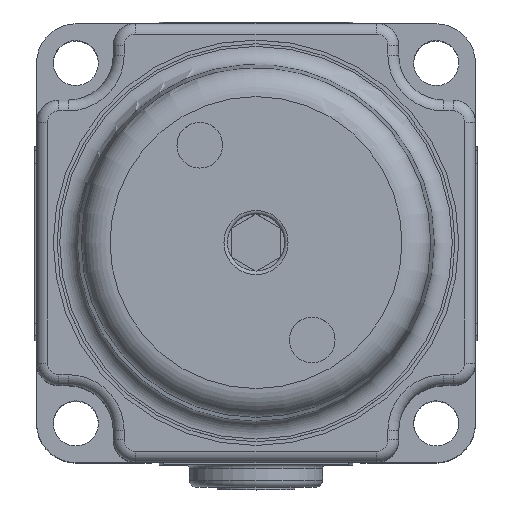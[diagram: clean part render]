
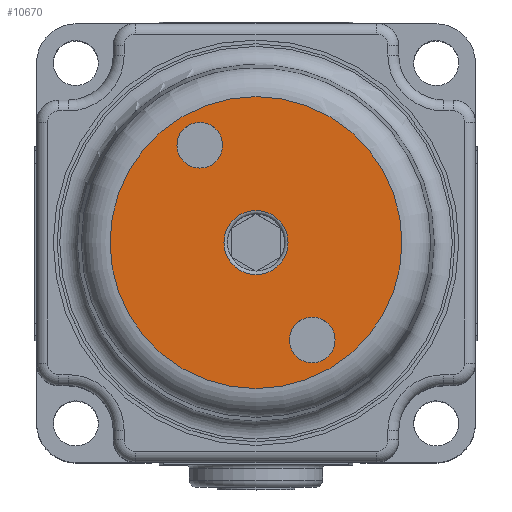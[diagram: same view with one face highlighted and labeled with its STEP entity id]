
A CAD part, top view. The second image highlights one B-rep face of the part: STEP entity #10670.
In plain terms, the highlighted planar face has unit normal (0, 0, 1).
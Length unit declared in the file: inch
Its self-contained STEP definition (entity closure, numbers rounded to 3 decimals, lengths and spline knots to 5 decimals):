
#452=FACE_BOUND('',#1825,.T.);
#453=FACE_BOUND('',#1826,.T.);
#454=FACE_BOUND('',#1827,.T.);
#713=PLANE('',#11827);
#1177=FACE_OUTER_BOUND('',#1824,.T.);
#1824=EDGE_LOOP('',(#8478,#8479));
#1825=EDGE_LOOP('',(#8480,#8481));
#1826=EDGE_LOOP('',(#8482,#8483));
#1827=EDGE_LOOP('',(#8484,#8485));
#2319=CIRCLE('',#11814,0.089);
#2324=CIRCLE('',#11819,0.089);
#2331=CIRCLE('',#11828,0.4051);
#2332=CIRCLE('',#11829,0.4051);
#2333=CIRCLE('',#11830,0.0635);
#2334=CIRCLE('',#11831,0.0635);
#2335=CIRCLE('',#11832,0.0635);
#2336=CIRCLE('',#11833,0.0635);
#4597=VERTEX_POINT('',#17941);
#4598=VERTEX_POINT('',#17942);
#4604=VERTEX_POINT('',#17963);
#4605=VERTEX_POINT('',#17964);
#4606=VERTEX_POINT('',#17967);
#4607=VERTEX_POINT('',#17968);
#4608=VERTEX_POINT('',#17971);
#4609=VERTEX_POINT('',#17972);
#5940=EDGE_CURVE('',#4597,#4598,#2319,.T.);
#5945=EDGE_CURVE('',#4598,#4597,#2324,.T.);
#5953=EDGE_CURVE('',#4604,#4605,#2331,.T.);
#5954=EDGE_CURVE('',#4605,#4604,#2332,.T.);
#5955=EDGE_CURVE('',#4606,#4607,#2333,.T.);
#5956=EDGE_CURVE('',#4607,#4606,#2334,.T.);
#5957=EDGE_CURVE('',#4608,#4609,#2335,.T.);
#5958=EDGE_CURVE('',#4609,#4608,#2336,.T.);
#8478=ORIENTED_EDGE('',*,*,#5953,.T.);
#8479=ORIENTED_EDGE('',*,*,#5954,.T.);
#8480=ORIENTED_EDGE('',*,*,#5955,.T.);
#8481=ORIENTED_EDGE('',*,*,#5956,.T.);
#8482=ORIENTED_EDGE('',*,*,#5957,.T.);
#8483=ORIENTED_EDGE('',*,*,#5958,.T.);
#8484=ORIENTED_EDGE('',*,*,#5940,.F.);
#8485=ORIENTED_EDGE('',*,*,#5945,.F.);
#10670=ADVANCED_FACE('',(#1177,#452,#453,#454),#713,.T.);
#11814=AXIS2_PLACEMENT_3D('',#17943,#14551,#14552);
#11819=AXIS2_PLACEMENT_3D('',#17951,#14561,#14562);
#11827=AXIS2_PLACEMENT_3D('',#17962,#14578,#14579);
#11828=AXIS2_PLACEMENT_3D('',#17965,#14580,#14581);
#11829=AXIS2_PLACEMENT_3D('',#17966,#14582,#14583);
#11830=AXIS2_PLACEMENT_3D('',#17969,#14584,#14585);
#11831=AXIS2_PLACEMENT_3D('',#17970,#14586,#14587);
#11832=AXIS2_PLACEMENT_3D('',#17973,#14588,#14589);
#11833=AXIS2_PLACEMENT_3D('',#17974,#14590,#14591);
#14551=DIRECTION('center_axis',(0.,0.,1.));
#14552=DIRECTION('ref_axis',(0.5,-0.866,0.));
#14561=DIRECTION('center_axis',(0.,0.,1.));
#14562=DIRECTION('ref_axis',(0.5,-0.866,0.));
#14578=DIRECTION('center_axis',(0.,0.,1.));
#14579=DIRECTION('ref_axis',(1.,0.,0.));
#14580=DIRECTION('center_axis',(0.,0.,
1.));
#14581=DIRECTION('ref_axis',(-0.5,0.866,0.));
#14582=DIRECTION('center_axis',(0.,0.,
1.));
#14583=DIRECTION('ref_axis',(-0.5,0.866,0.));
#14584=DIRECTION('center_axis',(0.,0.,
-1.));
#14585=DIRECTION('ref_axis',(0.414,0.91,0.));
#14586=DIRECTION('center_axis',(0.,0.,
-1.));
#14587=DIRECTION('ref_axis',(0.414,0.91,0.));
#14588=DIRECTION('center_axis',(0.,0.,-1.));
#14589=DIRECTION('ref_axis',(0.414,0.91,0.));
#14590=DIRECTION('center_axis',(0.,0.,-1.));
#14591=DIRECTION('ref_axis',(0.414,0.91,0.));
#17941=CARTESIAN_POINT('',(-0.05753,0.07044,0.96745));
#17942=CARTESIAN_POINT('',(-0.04561,0.02594,0.96745));
#17943=CARTESIAN_POINT('Origin',(-0.13461,0.02594,
0.96745));
#17951=CARTESIAN_POINT('Origin',(-0.13461,0.02594,
0.96745));
#17962=CARTESIAN_POINT('Origin',(-0.48578,-0.17681,
0.96745));
#17963=CARTESIAN_POINT('',(0.21622,0.22849,0.96745));
#17964=CARTESIAN_POINT('',(-0.53971,0.02594,0.96745));
#17965=CARTESIAN_POINT('Origin',(-0.13461,0.02594,
0.96745));
#17966=CARTESIAN_POINT('Origin',(-0.13461,0.02594,
0.96745));
#17967=CARTESIAN_POINT('',(-0.23562,0.32789,0.96745));
#17968=CARTESIAN_POINT('',(-0.3456,0.26439,0.96745));
#17969=CARTESIAN_POINT('Origin',(-0.29061,0.29614,0.96745));
#17970=CARTESIAN_POINT('Origin',(-0.29061,0.29614,0.96745));
#17971=CARTESIAN_POINT('',(0.07638,-0.21251,0.96745));
#17972=CARTESIAN_POINT('',(-0.0336,-0.27601,0.96745));
#17973=CARTESIAN_POINT('Origin',(0.02139,-0.24426,
0.96745));
#17974=CARTESIAN_POINT('Origin',(0.02139,-0.24426,
0.96745));
